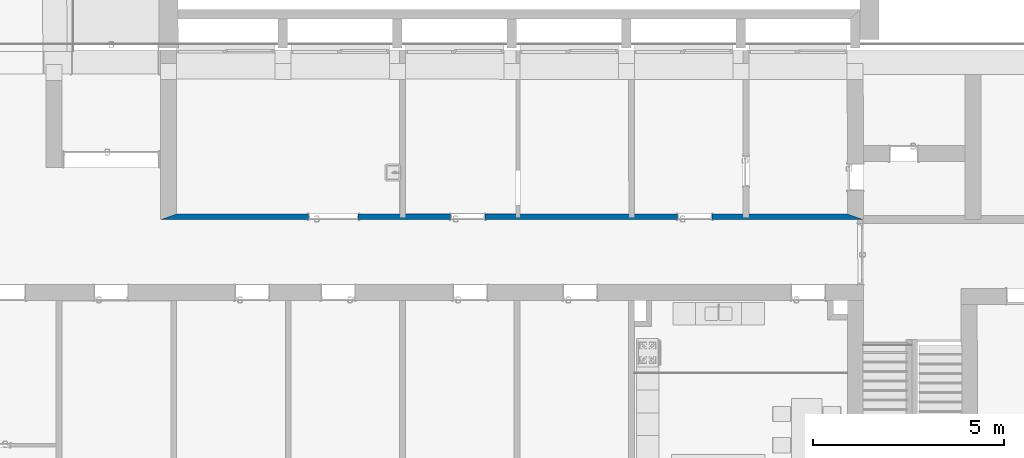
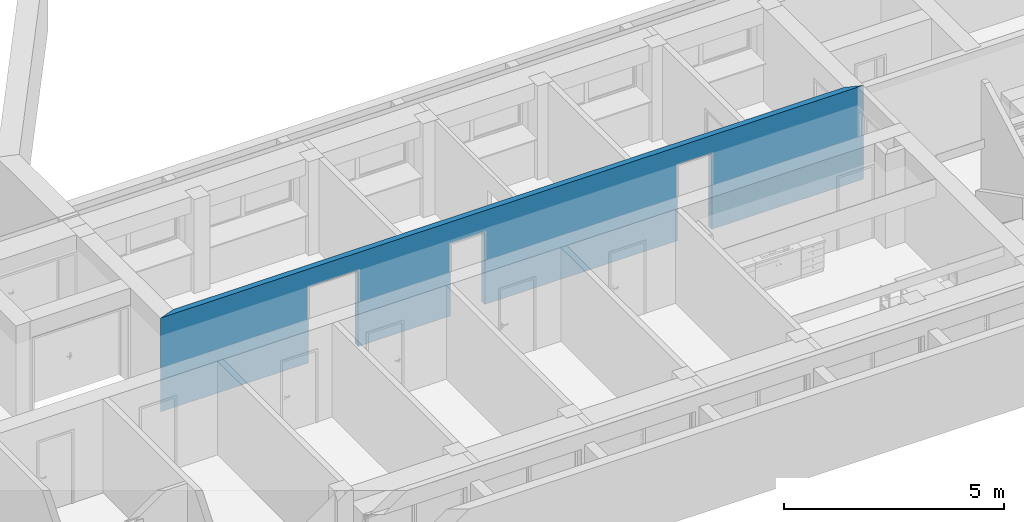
# One storey, part 8 of 127: 1 wall, 3 openings.
"""IFC2X3 building model written with IfcOpenShell, lengths in millimetres."""

import ifcopenshell
import ifcopenshell.guid

model = None  # the IFC model being written
_history = None  # IfcOwnerHistory: only IFC2X3 demands one
_inside = {}  # id of a spatial element -> (the spatial element, [elements in it])
_under = {}  # id of a project, library or spatial element -> (it, [spatial elements below it])
_declared = {}  # id of a project -> (the project, [libraries it declares])
_typed = {}  # id of a type object -> (the type object, [elements of that type])
_made_of = {}  # id of a material, layer set ... -> (it, [elements and type objects made of it])


def new_model(schema):
    """Start an empty IFC model of exactly this schema.

    Asked for "IFC4X3", IfcOpenShell would pick the latest addendum, in which some entities
    have other attributes; the version numbers below select the first issue.
    IFC2X3 requires an IfcOwnerHistory on every rooted entity: one is made here for all.
    """
    global model, _history
    if schema == "IFC4X3":
        model = ifcopenshell.file(schema_version=(4, 3, 0, 0))
    else:
        model = ifcopenshell.file(schema=schema)
    _inside.clear()
    _under.clear()
    _declared.clear()
    _typed.clear()
    _made_of.clear()
    _history = None
    if model.schema == "IFC2X3":
        org = make("IfcOrganization", Name="unknown")
        user = make(
            "IfcPersonAndOrganization",
            ThePerson=make("IfcPerson", FamilyName="unknown"),
            TheOrganization=org,
        )
        app = make(
            "IfcApplication",
            ApplicationDeveloper=org,
            Version="unknown",
            ApplicationFullName="unknown",
            ApplicationIdentifier="unknown",
        )
        _history = make(
            "IfcOwnerHistory",
            OwningUser=user,
            OwningApplication=app,
            ChangeAction="ADDED",
            CreationDate=0,
        )
    return model


def make(cls, **values):
    """One entity of the class cls with the attributes given. An attribute that is None is left unset."""
    return model.create_entity(
        cls, **{name: value for name, value in values.items() if value is not None}
    )


def entity(cls, *values):
    """Any entity or typed value of the class cls, its attributes in the order of the schema. None: left unset."""
    e = model.create_entity(cls)
    for i, value in enumerate(values):
        if value is not None:
            e[i] = value
    return e


def rooted(cls, **values):
    """An entity with a GlobalId (a new one), such as an element, a storey or a relation."""
    return make(cls, GlobalId=ifcopenshell.guid.new(), OwnerHistory=_history, **values)


def si_unit(unit_type, name, prefix=None):
    """IfcSIUnit, for example si_unit("LENGTHUNIT", "METRE", prefix="MILLI")."""
    return make("IfcSIUnit", UnitType=unit_type, Prefix=prefix, Name=name)


def converted_unit(unit_type, name, factor, base, dimensions=None, offset=None):
    """IfcConversionBasedUnit, such as the inch: factor (a typed value) times the base unit."""
    return make(
        "IfcConversionBasedUnit"
        if offset is None
        else "IfcConversionBasedUnitWithOffset",
        ConversionOffset=offset,
        Dimensions=None
        if dimensions is None
        else entity("IfcDimensionalExponents", *dimensions),
        UnitType=unit_type,
        Name=name,
        ConversionFactor=make(
            "IfcMeasureWithUnit", ValueComponent=factor, UnitComponent=base
        ),
    )


def derived_unit(unit_type, elements):
    """IfcDerivedUnit: a product of units, each with its exponent."""
    return make(
        "IfcDerivedUnit",
        Elements=[
            make("IfcDerivedUnitElement", Unit=unit, Exponent=power)
            for unit, power in elements
        ],
        UnitType=unit_type,
    )


def money_unit(currency):
    """IfcMonetaryUnit."""
    return make("IfcMonetaryUnit", Currency=currency)


def assignment(units):
    """IfcUnitAssignment: the units of a project."""
    return None if units is None else make("IfcUnitAssignment", Units=units)


def point(xyz):
    """IfcCartesianPoint."""
    return None if xyz is None else make("IfcCartesianPoint", Coordinates=xyz)


def direction(xyz):
    """IfcDirection."""
    return None if xyz is None else make("IfcDirection", DirectionRatios=xyz)


def frame(location, z_axis=None, x_axis=None):
    """IfcAxis2Placement3D, a coordinate frame: its origin and axes. An axis left out is left unset."""
    return make(
        "IfcAxis2Placement3D",
        Location=point(location),
        Axis=direction(z_axis),
        RefDirection=direction(x_axis),
    )


def frame_2d(location, x_axis=None):
    """IfcAxis2Placement2D, a coordinate frame in the plane: its origin and x axis."""
    return make(
        "IfcAxis2Placement2D", Location=point(location), RefDirection=direction(x_axis)
    )


def origin_with_axes():
    """The frame at (0, 0, 0) with the z axis (0, 0, 1) and the x axis (1, 0, 0) written out."""
    return frame((0.0, 0.0, 0.0), z_axis=(0.0, 0.0, 1.0), x_axis=(1.0, 0.0, 0.0))


def origin_2d_with_axis():
    """The frame at (0, 0) in the plane with the x axis (1, 0) written out."""
    return frame_2d((0.0, 0.0), x_axis=(1.0, 0.0))


def place(relative_to, where):
    """IfcLocalPlacement: puts the frame where relative to a parent placement (None: the world)."""
    return make(
        "IfcLocalPlacement", PlacementRelTo=relative_to, RelativePlacement=where
    )


def context(
    kind, dimensions, precision=None, world=None, true_north=None, identifier=None
):
    """IfcGeometricRepresentationContext, for example the 3D "Model" context."""
    return make(
        "IfcGeometricRepresentationContext",
        ContextIdentifier=identifier,
        ContextType=kind,
        CoordinateSpaceDimension=dimensions,
        Precision=precision,
        WorldCoordinateSystem=world,
        TrueNorth=true_north,
    )


def subcontext(parent, identifier, kind, view, scale=None):
    """IfcGeometricRepresentationSubContext, for example "Body" below "Model"."""
    return make(
        "IfcGeometricRepresentationSubContext",
        ContextIdentifier=identifier,
        ContextType=kind,
        ParentContext=parent,
        TargetScale=scale,
        TargetView=view,
    )


def project(units=None, contexts=None):
    """IfcProject with its units and contexts."""
    return rooted(
        "IfcProject",
        Name="project",
        RepresentationContexts=contexts,
        UnitsInContext=assignment(units),
    )


def spatial(cls, under=None, at=None, **own):
    """A site, building, storey or space (cls), placed at a placement, below another one or the project."""
    s = rooted(cls, ObjectPlacement=at, **own)
    if under is not None:
        _under.setdefault(under.id(), (under, []))[1].append(s)
    return s


def polyline(points):
    """IfcPolyline through the points."""
    return make("IfcPolyline", Points=[point(p) for p in points])


def profile(cls, at=None, kind="AREA", **sizes):
    """A parametric profile (cls). Its sizes go by their IFC names, for example OverallWidth=200.0."""
    return make(cls, ProfileType=kind, Position=at, **sizes)


def rectangle(**sizes):
    """IfcRectangleProfileDef."""
    return profile("IfcRectangleProfileDef", **sizes)


def outline(outer, holes=None, kind="AREA"):
    """IfcArbitraryClosedProfileDef: a profile drawn as a closed curve; with holes, ...WithVoids."""
    if holes is None:
        return make("IfcArbitraryClosedProfileDef", ProfileType=kind, OuterCurve=outer)
    return make(
        "IfcArbitraryProfileDefWithVoids",
        ProfileType=kind,
        OuterCurve=outer,
        InnerCurves=holes,
    )


def extrude(swept, where, along, depth):
    """IfcExtrudedAreaSolid: the profile swept, set in the frame where, extruded along a direction by depth."""
    return make(
        "IfcExtrudedAreaSolid",
        SweptArea=swept,
        Position=where,
        ExtrudedDirection=direction(along),
        Depth=depth,
    )


def shape(context_of_items, identifier, shape_type, items):
    """IfcShapeRepresentation: the items that make up one representation, for example the "Body"."""
    return make(
        "IfcShapeRepresentation",
        ContextOfItems=context_of_items,
        RepresentationIdentifier=identifier,
        RepresentationType=shape_type,
        Items=items,
    )


def material(Name=None, Category=None):
    """IfcMaterial."""
    return make("IfcMaterial", Name=Name, Category=Category)


def layer(
    of_material, thickness, ventilated=None, Name=None, Category=None, Priority=None
):
    """IfcMaterialLayer: one layer of a wall or slab, of a material (None: an air gap)."""
    return make(
        "IfcMaterialLayer",
        Material=of_material,
        LayerThickness=thickness,
        IsVentilated=ventilated,
        Name=Name,
        Category=Category,
        Priority=Priority,
    )


def layer_set(layers, Name=None):
    """IfcMaterialLayerSet."""
    return make("IfcMaterialLayerSet", MaterialLayers=layers, LayerSetName=Name)


def layer_usage(for_layer_set, set_direction, sense, offset, extent=None):
    """IfcMaterialLayerSetUsage: how a layer set lies in its element."""
    return make(
        "IfcMaterialLayerSetUsage",
        ForLayerSet=for_layer_set,
        LayerSetDirection=set_direction,
        DirectionSense=sense,
        OffsetFromReferenceLine=offset,
        ReferenceExtent=extent,
    )


def made_of(thing, what):
    """Note that an element or type object is made of a material, layer set ...; save() writes the relation."""
    if what is not None:
        _made_of.setdefault(what.id(), (what, []))[1].append(thing)
    return thing


def type_object(cls, material=None, **own):
    """A type object (cls), such as IfcWallType, which elements share."""
    return made_of(rooted(cls, **own), material)


def element(
    cls,
    number,
    at=None,
    inside=None,
    cuts=None,
    type_object=None,
    material=None,
    context=None,
    identifier="Body",
    shape_type=None,
    held_by="IfcProductDefinitionShape",
    body=None,
    shapes=None,
    **own,
):
    """One element of the class cls, such as IfcWall. Its Tag is "e" and its number.

    at: its placement. inside: the storey or other place that contains it. cuts: it is an
    opening in that element (IfcRelVoidsElement). A single representation is given by context,
    identifier, shape_type and body (its items); several are given by shapes. held_by: the class
    of the entity that holds the representations. save() writes the other relations.
    """
    e = rooted(cls, Tag="e%d" % number, ObjectPlacement=at, **own)
    if body is not None:
        shapes = [shape(context, identifier, shape_type, body)]
    if shapes is not None:
        e.Representation = make(held_by, Representations=shapes)
    if inside is not None:
        _inside.setdefault(inside.id(), (inside, []))[1].append(e)
    if cuts is not None:
        rooted(
            "IfcRelVoidsElement", RelatingBuildingElement=cuts, RelatedOpeningElement=e
        )
    if type_object is not None:
        _typed.setdefault(type_object.id(), (type_object, []))[1].append(e)
    return made_of(e, material)


def aggregate(whole, parts):
    """IfcRelAggregates: a whole, such as a stair, and the parts it consists of."""
    return rooted("IfcRelAggregates", RelatingObject=whole, RelatedObjects=parts)


def save(model, path):
    """Write the relations noted so far, then the file.

    IfcRelAggregates (storeys below a building ...), IfcRelContainedInSpatialStructure (elements
    in a storey), IfcRelDefinesByType, IfcRelAssociatesMaterial and IfcRelDeclares: one each for
    every whole, place, type object, material and project.
    """
    for whole, parts in _under.values():
        aggregate(whole, parts)
    for where, things in _inside.values():
        rooted(
            "IfcRelContainedInSpatialStructure",
            RelatedElements=things,
            RelatingStructure=where,
        )
    for kind, things in _typed.values():
        rooted("IfcRelDefinesByType", RelatedObjects=things, RelatingType=kind)
    for what, things in _made_of.values():
        rooted("IfcRelAssociatesMaterial", RelatedObjects=things, RelatingMaterial=what)
    for by, libraries in _declared.values():
        rooted("IfcRelDeclares", RelatingContext=by, RelatedDefinitions=libraries)
    model.write(path)


model = new_model("IFC2X3")

# Units and contexts
model_context = context("Model", 3, precision=1e-05, world=origin_with_axes(), true_north=direction((0.0, 1.0)))
body_context = subcontext(model_context, "Body", "Model", "MODEL_VIEW")
ifc_project = project(units=[si_unit("LENGTHUNIT", "METRE", prefix="MILLI"), si_unit("AREAUNIT", "SQUARE_METRE"), si_unit("VOLUMEUNIT", "CUBIC_METRE"), converted_unit("PLANEANGLEUNIT", "DEGREE", entity("IfcPlaneAngleMeasure", 0.0174532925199), si_unit("PLANEANGLEUNIT", "RADIAN"), dimensions=[0, 0, 0, 0, 0, 0, 0]), si_unit("SOLIDANGLEUNIT", "STERADIAN"), money_unit("EUR"), converted_unit("TIMEUNIT", "Year", entity("IfcTimeMeasure", 31556926.0), si_unit("TIMEUNIT", "SECOND"), dimensions=[0, 0, 1, 0, 0, 0, 0]), si_unit("MASSUNIT", "GRAM", prefix="KILO"), si_unit("THERMODYNAMICTEMPERATUREUNIT", "DEGREE_CELSIUS"), si_unit("LUMINOUSINTENSITYUNIT", "LUMEN"), si_unit("ENERGYUNIT", "JOULE", prefix="MEGA"), derived_unit("THERMALCONDUCTANCEUNIT", [(si_unit("POWERUNIT", "WATT"), 1), (si_unit("LENGTHUNIT", "METRE"), -1), (si_unit("THERMODYNAMICTEMPERATUREUNIT", "KELVIN"), -1)]), derived_unit("SPECIFICHEATCAPACITYUNIT", [(si_unit("ENERGYUNIT", "JOULE"), 1), (si_unit("MASSUNIT", "GRAM", prefix="KILO"), -1), (si_unit("THERMODYNAMICTEMPERATUREUNIT", "KELVIN"), -1)]), derived_unit("MASSDENSITYUNIT", [(si_unit("MASSUNIT", "GRAM", prefix="KILO"), 1), (si_unit("VOLUMEUNIT", "CUBIC_METRE"), -1)])], contexts=[model_context])

# Site, building, storey
site_placement = place(None, origin_with_axes())
site = spatial("IfcSite", under=ifc_project, at=site_placement, Name="Site", CompositionType="ELEMENT")
building_placement = place(site_placement, origin_with_axes())
building = spatial("IfcBuilding", under=site, at=building_placement, Name="Building", CompositionType="ELEMENT")
storey_placement = place(building_placement, origin_with_axes())
storey = spatial("IfcBuildingStorey", under=building, at=storey_placement, Name="1 KORRUS", CompositionType="ELEMENT", Elevation=0.0)

# Wall, openings
ifc_material = material(Name="Kivi -Ol.Olev Konstruktsioon")
ifc_layer = layer(ifc_material, 150.0, ventilated="UNKNOWN")
ifc_layer_set = layer_set([ifc_layer], Name="ol.olev ss 150")
ifc_layer_usage = layer_usage(ifc_layer_set, "AXIS2", "POSITIVE", 0.0)
wall_type = type_object("IfcWallType", Name="SW - 036", PredefinedType="NOTDEFINED")
wall_placement = place(storey_placement, frame((61158.906204, 42953.8718916, 0.0), z_axis=(0.0, 0.0, 1.0), x_axis=(-1.0, 0.0, 0.0)))
wall = element("IfcWallStandardCase", 1, at=wall_placement, inside=storey, type_object=wall_type, material=ifc_layer_usage, Name="ol.olev ss 150", context=body_context, shape_type="SweptSolid", body=[
    extrude(outline(polyline([(420.000432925, 0.0), (18000.491307, 0.0), (18420.3089653, 150.0), (-0.2153713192, 150.0), (420.000432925, 0.0)])), origin_with_axes(), (0.0, 0.0, 1.0), 2600.0),
])
opening_1_placement = place(wall_placement, frame((10370.1875009, 0.0, 0.0), z_axis=(0.0, 0.0, 1.0), x_axis=(1.0, 0.0, 0.0)))
element("IfcOpeningElement", 2, at=opening_1_placement, cuts=wall, Name="Siseuks * Door 22", context=body_context, shape_type="SweptSolid", body=[
    extrude(rectangle(XDim=900.0, YDim=2000.0, at=origin_2d_with_axis()), frame((0.0, -150.0, 1000.0), z_axis=(0.0, -1.0, 0.0), x_axis=(-1.0, 0.0, 0.0)), (0.0, 0.0, -1.0), 450.0),
    extrude(rectangle(XDim=974.0, YDim=2037.0, at=origin_2d_with_axis()), frame((0.0, 0.0, 1018.5), z_axis=(0.0, -1.0, 0.0), x_axis=(-1.0, 0.0, 0.0)), (0.0, 0.0, 1.0), 150.0),
    extrude(rectangle(XDim=974.0, YDim=2037.0, at=origin_2d_with_axis()), frame((0.0, 150.0, 1018.5), z_axis=(0.0, 1.0, 0.0), x_axis=(-1.0, 0.0, 0.0)), (0.0, 0.0, 1.0), 150.0),
])
opening_2_placement = place(wall_placement, frame((4422.30697371, 0.0, 0.0), z_axis=(0.0, 0.0, 1.0), x_axis=(1.0, 0.0, 0.0)))
element("IfcOpeningElement", 3, at=opening_2_placement, cuts=wall, Name="Siseuks * Door 22", context=body_context, shape_type="SweptSolid", body=[
    extrude(rectangle(XDim=900.0, YDim=2100.0, at=origin_2d_with_axis()), frame((0.0, -150.0, 1050.0), z_axis=(0.0, -1.0, 0.0), x_axis=(-1.0, 0.0, 0.0)), (0.0, 0.0, -1.0), 450.0),
    extrude(rectangle(XDim=974.0, YDim=2137.0, at=origin_2d_with_axis()), frame((0.0, 0.0, 1068.5), z_axis=(0.0, -1.0, 0.0), x_axis=(-1.0, 0.0, 0.0)), (0.0, 0.0, 1.0), 150.0),
    extrude(rectangle(XDim=974.0, YDim=2137.0, at=origin_2d_with_axis()), frame((0.0, 150.0, 1068.5), z_axis=(0.0, 1.0, 0.0), x_axis=(-1.0, 0.0, 0.0)), (0.0, 0.0, 1.0), 150.0),
])
opening_3_placement = place(wall_placement, frame((13891.245796, 0.0, 0.0), z_axis=(0.0, 0.0, 1.0), x_axis=(1.0, 0.0, 0.0)))
element("IfcOpeningElement", 4, at=opening_3_placement, cuts=wall, Name="Siseuks * Metal Double Door 22", context=body_context, shape_type="SweptSolid", body=[
    extrude(rectangle(XDim=1300.0, YDim=2100.0, at=origin_2d_with_axis()), frame((0.0, -150.0, 1050.0), z_axis=(0.0, 1.0, 0.0), x_axis=(1.0, 0.0, 0.0)), (0.0, 0.0, 1.0), 450.0),
    extrude(rectangle(XDim=1386.0, YDim=2143.0, at=origin_2d_with_axis()), frame((0.0, 0.0, 1071.5), z_axis=(0.0, 1.0, 0.0), x_axis=(1.0, 0.0, 0.0)), (0.0, 0.0, -1.0), 150.0),
    extrude(rectangle(XDim=1386.0, YDim=2143.0, at=origin_2d_with_axis()), frame((0.0, 150.0, 1071.5), z_axis=(0.0, -1.0, 0.0), x_axis=(1.0, 0.0, 0.0)), (0.0, 0.0, -1.0), 150.0),
])

save(model, "model.ifc")
